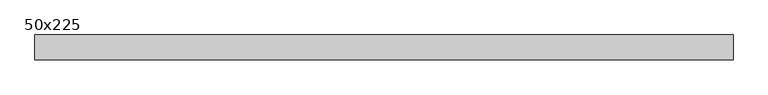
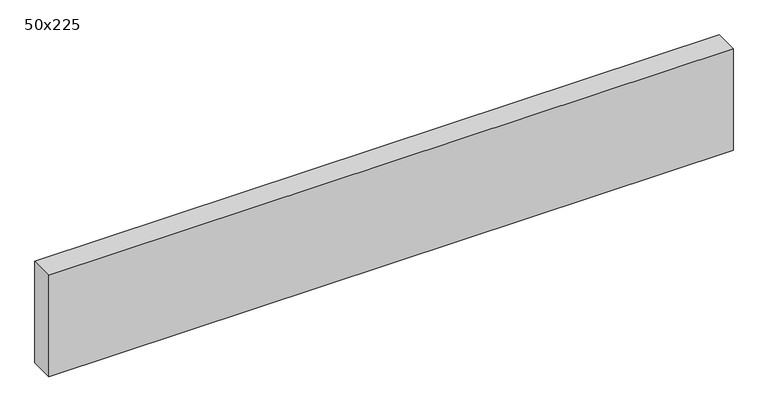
"""IFC4 building model written with IfcOpenShell, lengths in millimetres: beam geometry, Graded Timber : 50x225."""

from ifc_helpers import new_model, si_unit, frame, origin, place, context, project, spatial, polyline, outline, extrude, source, transform, mapped, element, save


def beam_50x225_0164bfb9(model_context):
    return source(origin(), model_context, "Body", "SweptSolid", [
        extrude(outline(polyline([(701.5, 25.0), (701.5, -25.0), (-701.5, -25.0), (-701.5, 25.0), (701.5, 25.0)])), frame((0.0, 0.0, -110.0), z_axis=(0.0, 0.0, 1.0), x_axis=(1.0, 0.0, 0.0)), (0.0, 0.0, 1.0), 220.0),
    ])


if __name__ == "__main__":
    model = new_model("IFC4")
    model_context = context("Model", 3, world=origin())
    ifc_project = project(units=[si_unit("LENGTHUNIT", "METRE", prefix="MILLI")], contexts=[model_context])
    site = spatial("IfcSite", under=ifc_project)
    building = spatial("IfcBuilding", under=site)
    placement = place(None, origin())
    beam_50x225_shape = beam_50x225_0164bfb9(model_context)
    element("IfcBeam", 1, ObjectType="Graded Timber : 50x225", at=placement, inside=building, context=model_context, shape_type="MappedRepresentation", body=[
        mapped(beam_50x225_shape, transform((0.0, 0.0, 0.0), x_axis=(1.0, 0.0, 0.0), y_axis=(0.0, 1.0, 0.0), z_axis=(0.0, 0.0, 1.0))),
    ])
    save(model, "model.ifc")
